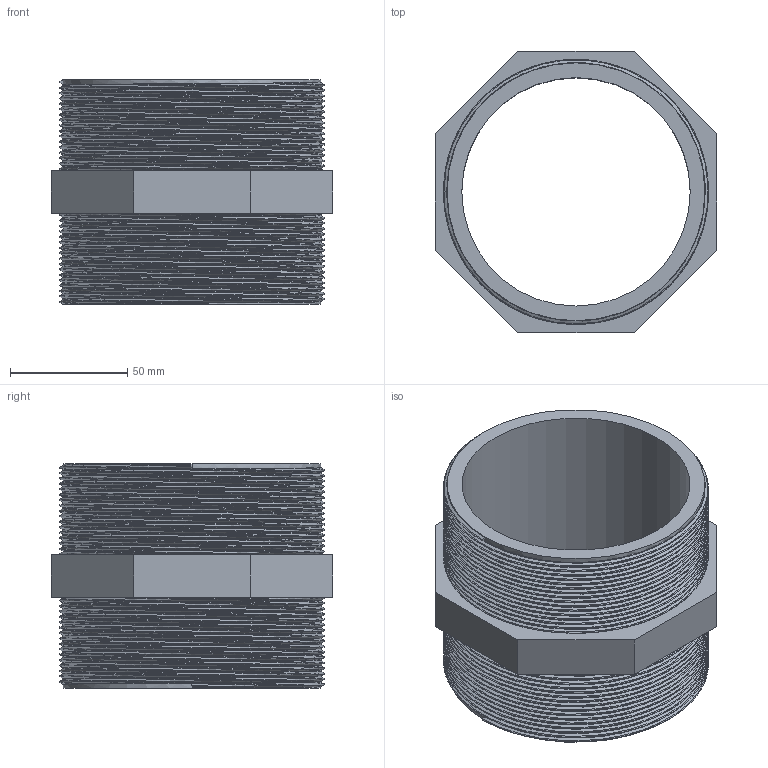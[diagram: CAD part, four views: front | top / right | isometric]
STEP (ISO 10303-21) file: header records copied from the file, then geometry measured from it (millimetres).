
FILE_DESCRIPTION(/* description */ ('PVC-U nipplo filettato BSP'),/* implementation_level */ '2;1');
FILE_NAME(/* name */ 'C:\Users\POLYPIPE\Desktop\DATASET INVENTOR\LIBRERIA EFFAST\RACCORDI 3DxWEB\RER\3D_RERNIE\3D_RERNIE110L.stp',/* time_stamp */ '2018-01-19T16:43:49+01:00',/* author */ ('POLYPIPE'),/* organization */ ('Polypipe Italia s.r.l.'),/* preprocessor_version */ 'ST-DEVELOPER v16.1',/* originating_system */ 'Autodesk Inventor 2016',/* authorisation */ '');
FILE_SCHEMA (('CONFIG_CONTROL_DESIGN'));
Length unit declared in the file: millimetre
Products named in the file (1): 3D_RERNIE
Bounding box: 120 x 120 x 96 mm (x, y, z)
Volume: 259495.7 mm3; surface area: 91100.1 mm2
Topology: 1 solids, 1 shells, 27 faces, 63 edges, 40 vertices
Faces by surface type: plane 14, bspline 10, cylinder 3
Full cylindrical faces by diameter (mm): 97.5 x1, 110.072 x2
Entity records: 13481 total; most frequent: CARTESIAN_POINT 12903, ORIENTED_EDGE 124, DIRECTION 86, EDGE_CURVE 62, VERTEX_POINT 40, EDGE_LOOP 32, LINE 30, VECTOR 30
